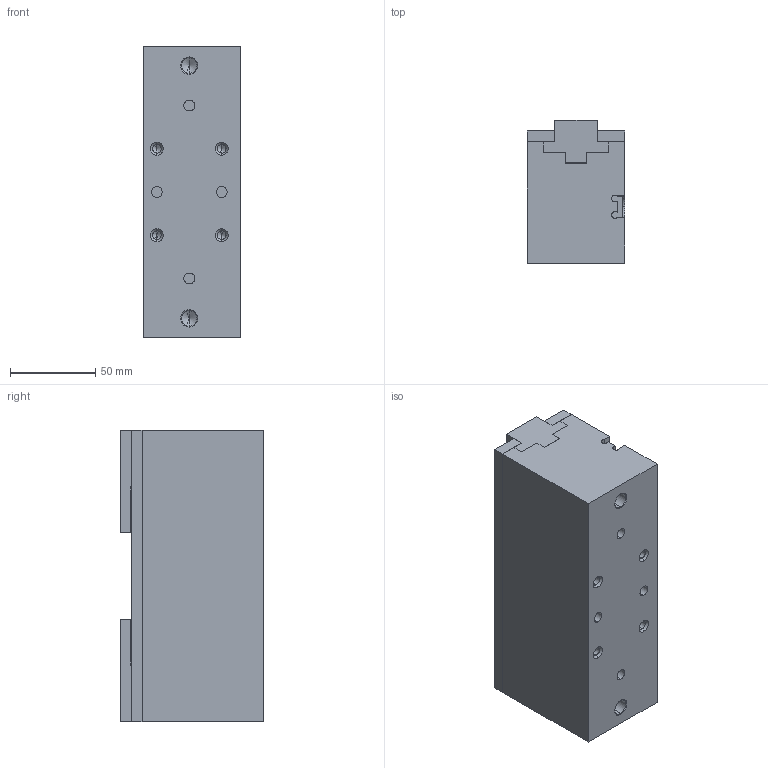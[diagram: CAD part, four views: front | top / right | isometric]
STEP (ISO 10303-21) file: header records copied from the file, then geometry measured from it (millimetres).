
FILE_DESCRIPTION (( 'STEP AP203' ), '1' );
FILE_NAME ('AGLP-12-2000 open.STEP', '2020-04-30T20:37:36', ( '' ), ( '' ), 'SwSTEP 2.0', 'SolidWorks 2016', '' );
FILE_SCHEMA (( 'CONFIG_CONTROL_DESIGN' ));
Length unit declared in the file: inch
Products named in the file (4): aglp12-1206; AGLP-12-2000 open; aglp12-1201; aglp12-1202A
Assembly tree (4 placements, depth 2):
  AGLP-12-2000 open
    aglp12-1201
    aglp12-1202A  x2
    aglp12-1206
Bounding box: 57.15 x 84.14 x 171.45 mm (x, y, z)
Volume: 737677.3 mm3; surface area: 101397.1 mm2
Topology: 4 solids, 4 shells, 226 faces, 543 edges, 331 vertices
Faces by surface type: cylinder 88, plane 86, cone 52
Entity records: 5886 total; most frequent: DIRECTION 1014, CARTESIAN_POINT 913, ORIENTED_EDGE 872, EDGE_CURVE 436, AXIS2_PLACEMENT_3D 380, VERTEX_POINT 279, VECTOR 254, LINE 254
